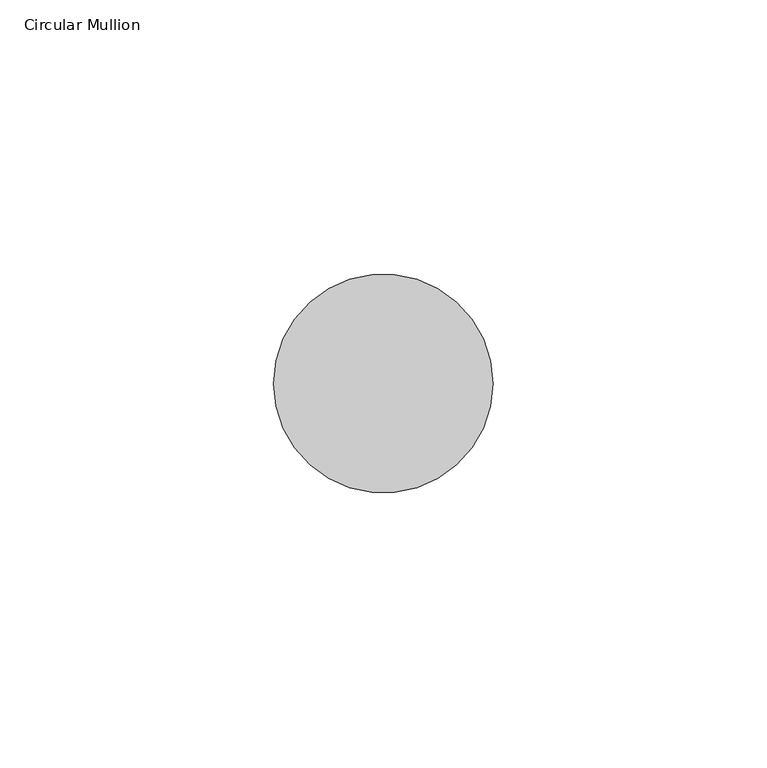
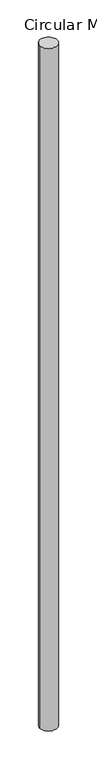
"""IFC4 building model written with IfcOpenShell, lengths in millimetres: member geometry, Circular Mullion : GRADIL 40mm."""

from ifc_helpers import new_model, si_unit, point, frame, origin, origin_2d, place, context, project, spatial, circle_curve, trimmed, segment, composite_curve, outline, extrude, source, transform, mapped, element, save


def circular_mullion_598166cf(model_context):
    return source(origin(), model_context, "Body", "SweptSolid", [
        extrude(outline(composite_curve([segment(trimmed(circle_curve(origin_2d(), 20.0), [point((20.0, 0.0))], [point((-20.0, 0.0))], False, "CARTESIAN"), True, "CONTINUOUS"), segment(trimmed(circle_curve(origin_2d(), 20.0), [point((-20.0, 0.0))], [point((20.0, 0.0))], False, "CARTESIAN"), True, "CONTINUOUS")], self_intersect=False)), frame((0.0, 0.0, -1662.9713281), z_axis=(0.0, 0.0, 1.0), x_axis=(1.0, 0.0, 0.0)), (0.0, 0.0, 1.0), 1662.9713281),
    ])


if __name__ == "__main__":
    model = new_model("IFC4")
    model_context = context("Model", 3, world=origin())
    ifc_project = project(units=[si_unit("LENGTHUNIT", "METRE", prefix="MILLI")], contexts=[model_context])
    site = spatial("IfcSite", under=ifc_project)
    building = spatial("IfcBuilding", under=site)
    placement = place(None, origin())
    circular_mullion_shape = circular_mullion_598166cf(model_context)
    element("IfcMember", 1, ObjectType="Circular Mullion : GRADIL 40mm", at=placement, inside=building, context=model_context, shape_type="MappedRepresentation", body=[
        mapped(circular_mullion_shape, transform((0.0, 0.0, 0.0), x_axis=(1.0, 0.0, 0.0), y_axis=(0.0, 1.0, 0.0), z_axis=(0.0, 0.0, 1.0))),
    ])
    save(model, "model.ifc")
